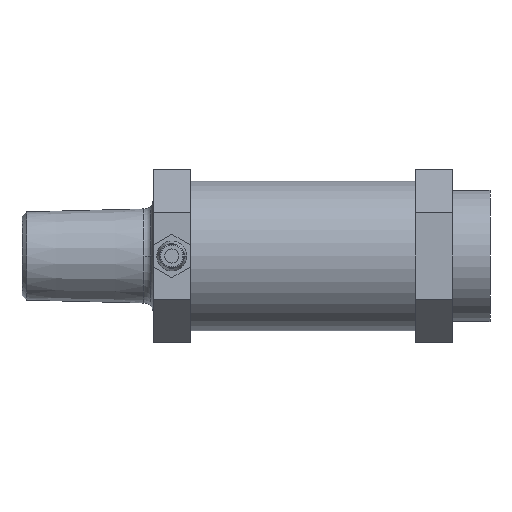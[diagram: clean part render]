
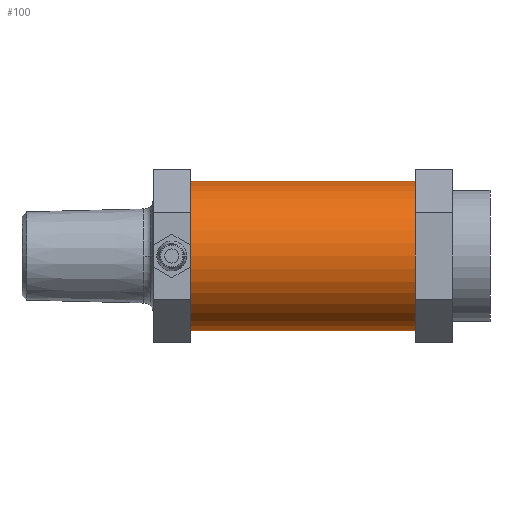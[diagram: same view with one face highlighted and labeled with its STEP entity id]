
A CAD part, front view. The second image highlights one B-rep face of the part: STEP entity #100.
In plain terms, the highlighted cylindrical face has radius 12.7 mm (diameter 25.4 mm), a partial arc.
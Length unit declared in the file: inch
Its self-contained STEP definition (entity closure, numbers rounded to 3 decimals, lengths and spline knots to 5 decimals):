
#30=CARTESIAN_POINT('',(-0.5,0.,0.));
#31=DIRECTION('',(1.,0.,0.));
#32=DIRECTION('',(0.,0.,1.));
#33=AXIS2_PLACEMENT_3D('',#30,#31,#32);
#35=DIRECTION('',(1.,0.,0.));
#36=VECTOR('',#35,1.5);
#37=CARTESIAN_POINT('',(-2.,0.,-0.5));
#38=LINE('',#37,#36);
#39=DIRECTION('',(1.,0.,0.));
#40=VECTOR('',#39,1.5);
#41=CARTESIAN_POINT('',(-2.,0.,0.5));
#42=LINE('',#41,#40);
#43=CARTESIAN_POINT('',(-2.,0.,0.));
#44=DIRECTION('',(-1.,0.,0.));
#45=DIRECTION('',(0.,0.,-1.));
#46=AXIS2_PLACEMENT_3D('',#43,#44,#45);
#53=CARTESIAN_POINT('',(-2.,0.,0.5));
#54=CARTESIAN_POINT('',(-0.5,0.,0.5));
#55=VERTEX_POINT('',#53);
#56=VERTEX_POINT('',#54);
#57=CARTESIAN_POINT('',(-2.,0.,-0.5));
#58=CARTESIAN_POINT('',(-0.5,0.,-0.5));
#59=VERTEX_POINT('',#57);
#60=VERTEX_POINT('',#58);
#88=CARTESIAN_POINT('',(-2.,0.,0.));
#89=DIRECTION('',(1.,0.,0.));
#90=DIRECTION('',(0.,0.,-1.));
#91=AXIS2_PLACEMENT_3D('',#88,#89,#90);
#92=CYLINDRICAL_SURFACE('',#91,0.5);
#93=ORIENTED_EDGE('',*,*,#83,.T.);
#94=ORIENTED_EDGE('',*,*,#72,.F.);
#96=ORIENTED_EDGE('',*,*,#95,.T.);
#97=ORIENTED_EDGE('',*,*,#68,.T.);
#98=EDGE_LOOP('',(#93,#94,#96,#97));
#99=FACE_OUTER_BOUND('',#98,.F.);
#34=CIRCLE('',#33,0.5);
#47=CIRCLE('',#46,0.5);
#68=EDGE_CURVE('',#55,#56,#42,.T.);
#72=EDGE_CURVE('',#59,#60,#38,.T.);
#83=EDGE_CURVE('',#56,#60,#34,.T.);
#95=EDGE_CURVE('',#59,#55,#47,.T.);
#100=ADVANCED_FACE('',(#99),#92,.T.);
